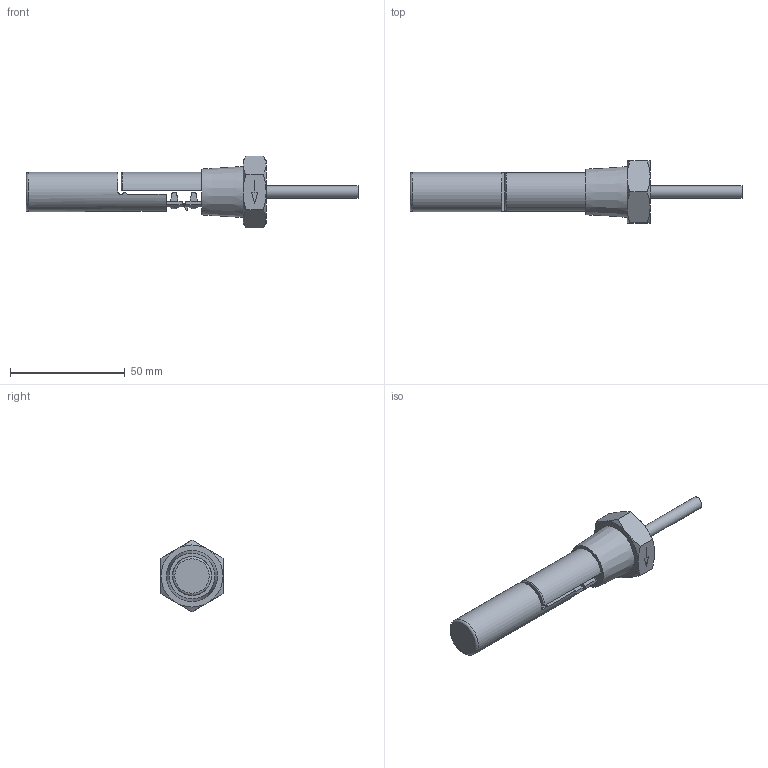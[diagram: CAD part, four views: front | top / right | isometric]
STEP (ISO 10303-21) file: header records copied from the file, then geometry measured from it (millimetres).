
FILE_DESCRIPTION(/* description */ ('Katalogmodell Elobau'),/* implementation_level */ '2;1');
FILE_NAME(/* name */ '204KS__0_A.stp',/* time_stamp */ '2014-10-01T09:55:01+02:00',/* author */ ('Elobau GmbH & Co. KG'),/* organization */ ('Elobau GmbH & Co. KG'),/* preprocessor_version */ 'ST-DEVELOPER v15',/* originating_system */ 'SIEMENS PLM Software NX 8.5',/* authorisation */ '');
FILE_SCHEMA (('AUTOMOTIVE_DESIGN { 1 0 10303 214 3 1 1 1 }'));
Length unit declared in the file: millimetre
Products named in the file (1): 204KS..0_A
Bounding box: 144.5 x 27 x 31.18 mm (x, y, z)
Volume: 28729.9 mm3; surface area: 9527.9 mm2
Topology: 2 solids, 2 shells, 108 faces, 274 edges, 180 vertices
Faces by surface type: plane 73, cone 17, cylinder 9, bspline 6, sphere 2, torus 1
Full cylindrical faces by diameter (mm): 5.4 x1, 17 x1
Entity records: 4145 total; most frequent: CARTESIAN_POINT 905, ORIENTED_EDGE 530, DIRECTION 470, EDGE_CURVE 265, VERTEX_POINT 179, AXIS2_PLACEMENT_3D 158, LINE 154, VECTOR 154
